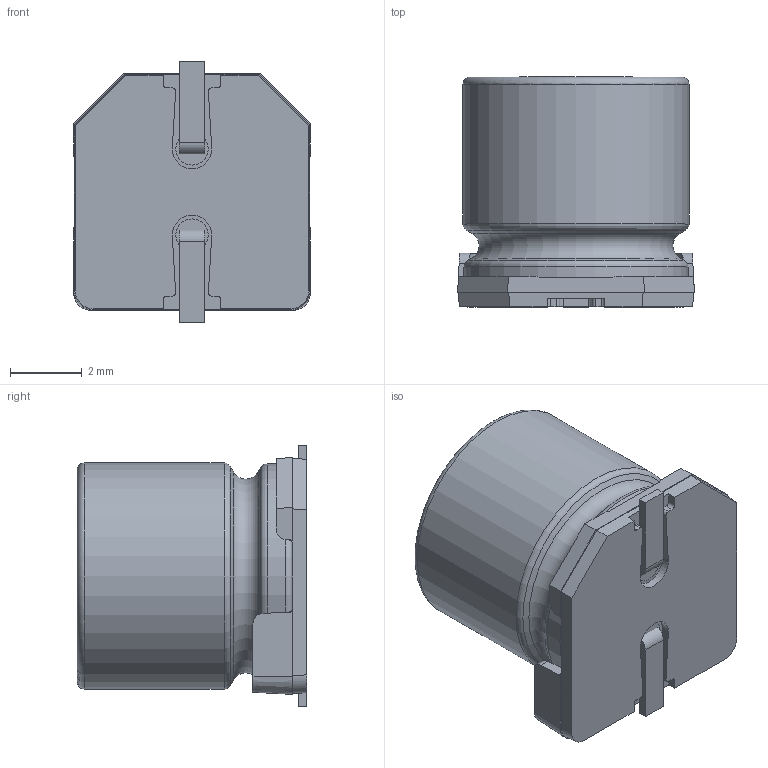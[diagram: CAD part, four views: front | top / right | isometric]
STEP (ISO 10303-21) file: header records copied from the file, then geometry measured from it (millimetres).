
FILE_DESCRIPTION (( 'STEP AP214' ), '1' );
FILE_NAME ('C65.STEP', '2019-07-09T23:54:47', ( '全社標準PC（ver1803）' ), ( 'パナソニック株式会社' ), 'SwSTEP 2.0', 'SolidWorks 2019', '' );
FILE_SCHEMA (( 'AUTOMOTIVE_DESIGN' ));
Length unit declared in the file: millimetre
Products named in the file (1): C65
Bounding box: 6.6 x 6.4 x 7.3 mm (x, y, z)
Surface area: 282.3 mm2 (no closed solid volume)
Topology: 0 solids, 6 shells, 101 faces, 292 edges, 198 vertices
Faces by surface type: plane 58, cylinder 32, cone 6, torus 5
Full cylindrical faces by diameter (mm): 6.25 x1, 6.3 x1
Entity records: 4491 total; most frequent: CARTESIAN_POINT 797, ORIENTED_EDGE 537, DIRECTION 501, EDGE_CURVE 282, VERTEX_POINT 197, LINE 183, VECTOR 183, AXIS2_PLACEMENT_3D 159
